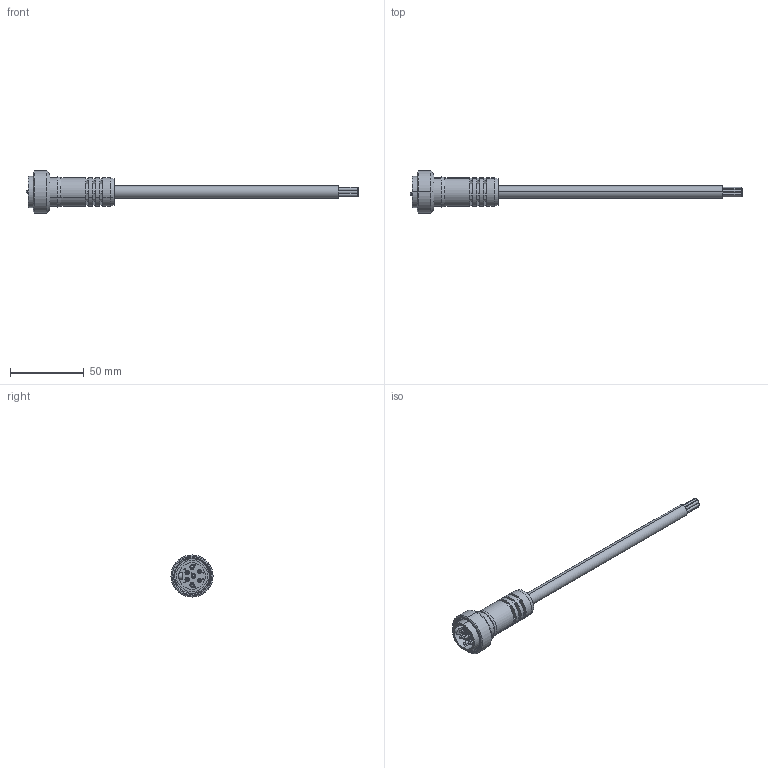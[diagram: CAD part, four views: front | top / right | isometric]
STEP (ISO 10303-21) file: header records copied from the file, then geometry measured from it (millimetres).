
FILE_DESCRIPTION (( 'STEP AP214' ), '1' );
FILE_NAME ('MIN-7MPX-ZZ.STEP', '2011-03-19T22:56:24', ( 'Bruce' ), ( 'HP' ), 'SwSTEP 2.0', 'SolidWorks 2011', '' );
FILE_SCHEMA (( 'AUTOMOTIVE_DESIGN' ));
Length unit declared in the file: millimetre
Products named in the file (1): MIN-7MPX-ZZ
Bounding box: 225.53 x 28.57 x 28.57 mm (x, y, z)
Volume: 26305 mm3; surface area: 13489.8 mm2
Topology: 11 solids, 11 shells, 318 faces, 764 edges, 489 vertices
Faces by surface type: plane 132, cylinder 104, bspline 40, cone 28, sphere 14
Entity records: 15616 total; most frequent: CARTESIAN_POINT 4775, ORIENTED_EDGE 1500, DIRECTION 1438, EDGE_CURVE 750, AXIS2_PLACEMENT_3D 513, VERTEX_POINT 489, LINE 412, VECTOR 412
